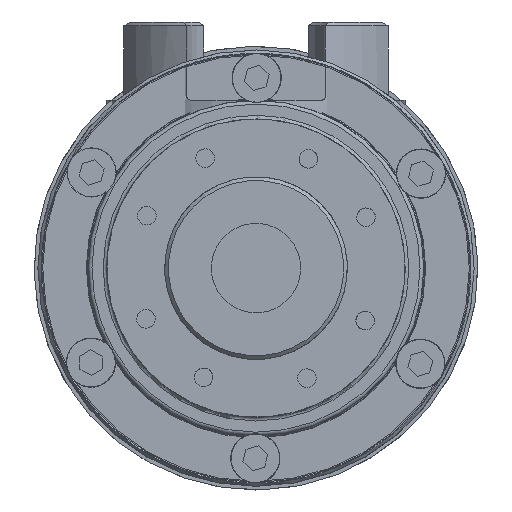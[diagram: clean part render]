
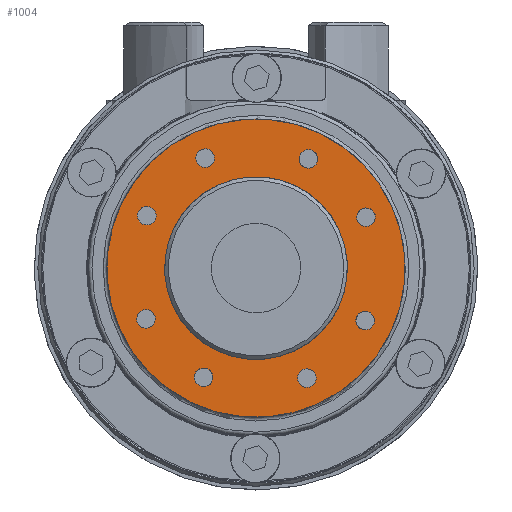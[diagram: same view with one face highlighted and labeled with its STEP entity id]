
A CAD part, left-side view. The second image highlights one B-rep face of the part: STEP entity #1004.
In plain terms, the highlighted planar face has unit normal (-1, 0, 0) as drawn and (0, -1, 0) by its records, which use the part's own axes.
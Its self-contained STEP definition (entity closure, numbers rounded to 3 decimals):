
#1004 = ADVANCED_FACE( '', ( #2088, #2089, #2090, #2091, #2092, #2093, #2094, #2095, #2096, #2097 ), #2098, .F. );
#2088 = FACE_OUTER_BOUND( '', #3242, .T. );
#2089 = FACE_BOUND( '', #3243, .T. );
#2090 = FACE_BOUND( '', #3244, .T. );
#2091 = FACE_BOUND( '', #3245, .T. );
#2092 = FACE_BOUND( '', #3246, .T. );
#2093 = FACE_BOUND( '', #3247, .T. );
#2094 = FACE_BOUND( '', #3248, .T. );
#2095 = FACE_BOUND( '', #3249, .T. );
#2096 = FACE_BOUND( '', #3250, .T. );
#2097 = FACE_BOUND( '', #3251, .T. );
#2098 = PLANE( '', #3252 );
#3242 = EDGE_LOOP( '', ( #5844 ) );
#3243 = EDGE_LOOP( '', ( #5845 ) );
#3244 = EDGE_LOOP( '', ( #5846 ) );
#3245 = EDGE_LOOP( '', ( #5847 ) );
#3246 = EDGE_LOOP( '', ( #5848 ) );
#3247 = EDGE_LOOP( '', ( #5849 ) );
#3248 = EDGE_LOOP( '', ( #5850 ) );
#3249 = EDGE_LOOP( '', ( #5851 ) );
#3250 = EDGE_LOOP( '', ( #5852 ) );
#3251 = EDGE_LOOP( '', ( #5853 ) );
#3252 = AXIS2_PLACEMENT_3D( '', #5854, #5855, #5856 );
#5844 = ORIENTED_EDGE( '', *, *, #7006, .T. );
#5845 = ORIENTED_EDGE( '', *, *, #7020, .F. );
#5846 = ORIENTED_EDGE( '', *, *, #7007, .F. );
#5847 = ORIENTED_EDGE( '', *, *, #7021, .F. );
#5848 = ORIENTED_EDGE( '', *, *, #7022, .F. );
#5849 = ORIENTED_EDGE( '', *, *, #7023, .F. );
#5850 = ORIENTED_EDGE( '', *, *, #7024, .F. );
#5851 = ORIENTED_EDGE( '', *, *, #7018, .F. );
#5852 = ORIENTED_EDGE( '', *, *, #7017, .F. );
#5853 = ORIENTED_EDGE( '', *, *, #7019, .F. );
#5854 = CARTESIAN_POINT( '', ( 0., 0., 40. ) );
#5855 = DIRECTION( '', ( 0., 1., 0. ) );
#5856 = DIRECTION( '', ( 1., 0., 0. ) );
#7006 = EDGE_CURVE( '', #8243, #8243, #8244, .T. );
#7007 = EDGE_CURVE( '', #8245, #8245, #8246, .T. );
#7017 = EDGE_CURVE( '', #8265, #8265, #8266, .T. );
#7018 = EDGE_CURVE( '', #8267, #8267, #8268, .T. );
#7019 = EDGE_CURVE( '', #8269, #8269, #8270, .T. );
#7020 = EDGE_CURVE( '', #8271, #8271, #8272, .T. );
#7021 = EDGE_CURVE( '', #8273, #8273, #8274, .T. );
#7022 = EDGE_CURVE( '', #8275, #8275, #8276, .T. );
#7023 = EDGE_CURVE( '', #8277, #8277, #8278, .T. );
#7024 = EDGE_CURVE( '', #8279, #8279, #8280, .T. );
#8243 = VERTEX_POINT( '', #10425 );
#8244 = CIRCLE( '', #10426, 40. );
#8245 = VERTEX_POINT( '', #10427 );
#8246 = CIRCLE( '', #10428, 2.5 );
#8265 = VERTEX_POINT( '', #10447 );
#8266 = CIRCLE( '', #10448, 2.5 );
#8267 = VERTEX_POINT( '', #10449 );
#8268 = CIRCLE( '', #10450, 2.5 );
#8269 = VERTEX_POINT( '', #10451 );
#8270 = CIRCLE( '', #10452, 24.5 );
#8271 = VERTEX_POINT( '', #10453 );
#8272 = CIRCLE( '', #10454, 2.5 );
#8273 = VERTEX_POINT( '', #10455 );
#8274 = CIRCLE( '', #10456, 2.5 );
#8275 = VERTEX_POINT( '', #10457 );
#8276 = CIRCLE( '', #10458, 2.5 );
#8277 = VERTEX_POINT( '', #10459 );
#8278 = CIRCLE( '', #10460, 2.5 );
#8279 = VERTEX_POINT( '', #10461 );
#8280 = CIRCLE( '', #10462, 2.5 );
#10425 = CARTESIAN_POINT( '', ( 0., 0., -40. ) );
#10426 = AXIS2_PLACEMENT_3D( '', #12251, #12252, #12253 );
#10427 = CARTESIAN_POINT( '', ( -32.5, 0., 2.5 ) );
#10428 = AXIS2_PLACEMENT_3D( '', #12254, #12255, #12256 );
#10447 = CARTESIAN_POINT( '', ( 2.5, 0., 32.5 ) );
#10448 = AXIS2_PLACEMENT_3D( '', #12284, #12285, #12286 );
#10449 = CARTESIAN_POINT( '', ( 23.202, 0., 25.054 ) );
#10450 = AXIS2_PLACEMENT_3D( '', #12287, #12288, #12289 );
#10451 = CARTESIAN_POINT( '', ( 0., 0., -24.5 ) );
#10452 = AXIS2_PLACEMENT_3D( '', #12290, #12291, #12292 );
#10453 = CARTESIAN_POINT( '', ( -25.054, 0., 23.202 ) );
#10454 = AXIS2_PLACEMENT_3D( '', #12293, #12294, #12295 );
#10455 = CARTESIAN_POINT( '', ( -23.202, 0., -25.054 ) );
#10456 = AXIS2_PLACEMENT_3D( '', #12296, #12297, #12298 );
#10457 = CARTESIAN_POINT( '', ( -2.5, 0., -32.5 ) );
#10458 = AXIS2_PLACEMENT_3D( '', #12299, #12300, #12301 );
#10459 = CARTESIAN_POINT( '', ( 25.054, 0., -23.202 ) );
#10460 = AXIS2_PLACEMENT_3D( '', #12302, #12303, #12304 );
#10461 = CARTESIAN_POINT( '', ( 32.5, 0., -2.5 ) );
#10462 = AXIS2_PLACEMENT_3D( '', #12305, #12306, #12307 );
#12251 = CARTESIAN_POINT( '', ( 0., 0., 0. ) );
#12252 = DIRECTION( '', ( 0., -1., 0. ) );
#12253 = DIRECTION( '', ( 0., 0., -1. ) );
#12254 = CARTESIAN_POINT( '', ( -32.5, 0., 0. ) );
#12255 = DIRECTION( '', ( 0., -1., 0. ) );
#12256 = DIRECTION( '', ( 0., 0., 1. ) );
#12284 = CARTESIAN_POINT( '', ( 0., 0., 32.5 ) );
#12285 = DIRECTION( '', ( 0., -1., 0. ) );
#12286 = DIRECTION( '', ( 1., 0., 0. ) );
#12287 = CARTESIAN_POINT( '', ( 20.702, 0., 25.054 ) );
#12288 = DIRECTION( '', ( 0., -1., 0. ) );
#12289 = DIRECTION( '', ( 1., 0., 0. ) );
#12290 = CARTESIAN_POINT( '', ( 0., 0., 0. ) );
#12291 = DIRECTION( '', ( 0., -1., 0. ) );
#12292 = DIRECTION( '', ( 0., 0., -1. ) );
#12293 = CARTESIAN_POINT( '', ( -25.054, 0., 20.702 ) );
#12294 = DIRECTION( '', ( 0., -1., 0. ) );
#12295 = DIRECTION( '', ( 0., 0., 1. ) );
#12296 = CARTESIAN_POINT( '', ( -20.702, 0., -25.054 ) );
#12297 = DIRECTION( '', ( 0., -1., 0. ) );
#12298 = DIRECTION( '', ( -1., 0., 0. ) );
#12299 = CARTESIAN_POINT( '', ( 0., 0., -32.5 ) );
#12300 = DIRECTION( '', ( 0., -1., 0. ) );
#12301 = DIRECTION( '', ( -1., 0., 0. ) );
#12302 = CARTESIAN_POINT( '', ( 25.054, 0., -20.702 ) );
#12303 = DIRECTION( '', ( 0., -1., 0. ) );
#12304 = DIRECTION( '', ( 0., 0., -1. ) );
#12305 = CARTESIAN_POINT( '', ( 32.5, 0., 0. ) );
#12306 = DIRECTION( '', ( 0., -1., 0. ) );
#12307 = DIRECTION( '', ( 0., 0., -1. ) );
